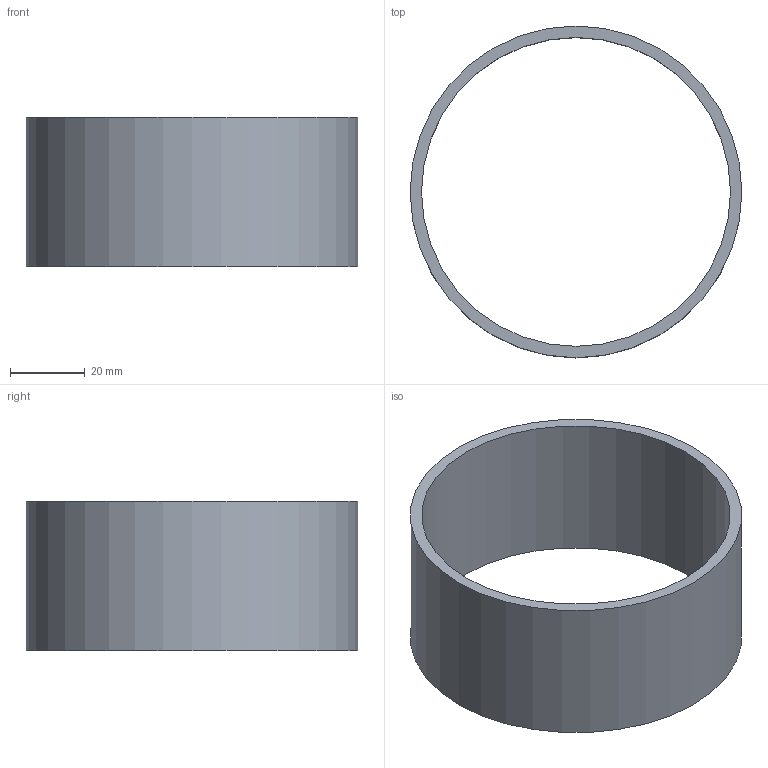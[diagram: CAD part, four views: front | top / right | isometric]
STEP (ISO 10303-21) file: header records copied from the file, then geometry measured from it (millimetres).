
FILE_DESCRIPTION(('Open CASCADE Model'),'2;1');
FILE_NAME('Open CASCADE Shape Model','2026-09-07T11:14:07',('Author'),( 'Open CASCADE'),'Open CASCADE STEP processor 7.9','Open CASCADE 7.9' ,'Unknown');
FILE_SCHEMA(('AUTOMOTIVE_DESIGN { 1 0 10303 214 1 1 1 1 }'));
Length unit declared in the file: millimetre
Products named in the file (1): Open CASCADE STEP translator 7.9 15
Bounding box: 88.9 x 88.9 x 40.01 mm (x, y, z)
Volume: 32914.8 mm3; surface area: 23228.7 mm2
Topology: 1 solids, 1 shells, 4 faces, 6 edges, 4 vertices
Faces by surface type: cylinder 2, plane 2
Full cylindrical faces by diameter (mm): 82.8 x1, 88.9 x1
Entity records: 186 total; most frequent: DIRECTION 32, CARTESIAN_POINT 27, ORIENTED_EDGE 12, PCURVE 12, DEFINITIONAL_REPRESENTATION 12, LINE 10, VECTOR 10, AXIS2_PLACEMENT_3D 9
